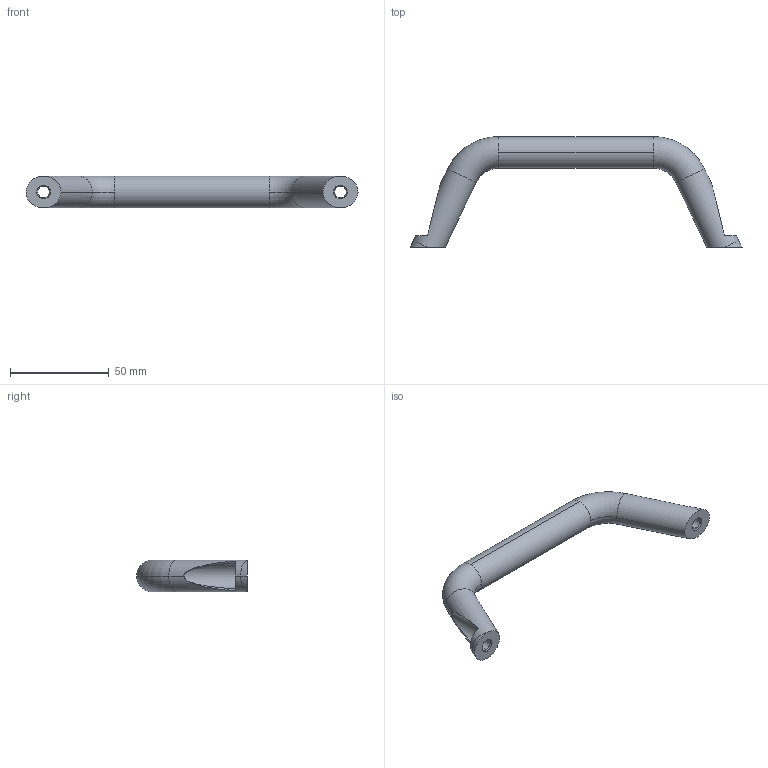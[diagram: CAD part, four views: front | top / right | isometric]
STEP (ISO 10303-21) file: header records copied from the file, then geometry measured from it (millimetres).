
FILE_DESCRIPTION (( 'STEP AP214' ), '1' );
FILE_NAME ('XG01-033.STEP', '2023-06-28T01:39:29', ( 'Windows 蚚誧' ), ( '' ), 'SwSTEP 2.0', 'SolidWorks 2019', '' );
FILE_SCHEMA (( 'AUTOMOTIVE_DESIGN' ));
Length unit declared in the file: millimetre
Products named in the file (1): XG01-033
Bounding box: 167.74 x 56 x 16 mm (x, y, z)
Volume: 37932.3 mm3; surface area: 11077.5 mm2
Topology: 1 solids, 1 shells, 40 faces, 100 edges, 58 vertices
Faces by surface type: cylinder 16, plane 8, bspline 8, torus 4, cone 4
Entity records: 1624 total; most frequent: CARTESIAN_POINT 755, ORIENTED_EDGE 192, DIRECTION 164, EDGE_CURVE 96, AXIS2_PLACEMENT_3D 71, VERTEX_POINT 58, EDGE_LOOP 44, ADVANCED_FACE 40
